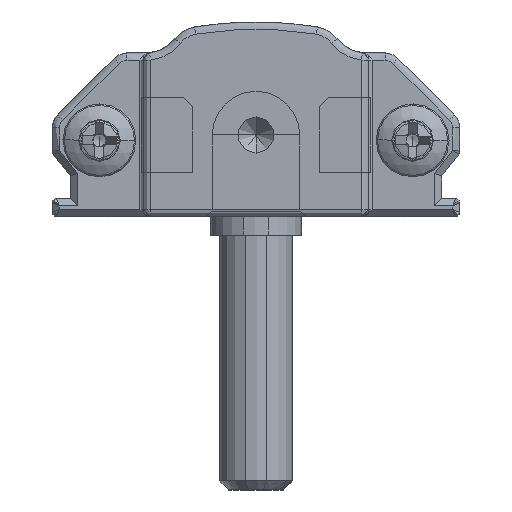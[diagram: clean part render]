
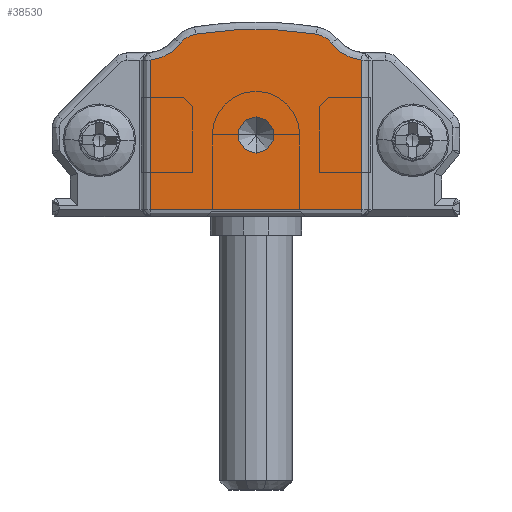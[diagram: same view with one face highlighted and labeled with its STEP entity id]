
A CAD part, front view. The second image highlights one B-rep face of the part: STEP entity #38530.
In plain terms, the highlighted planar face has unit normal (0, -1, 0).
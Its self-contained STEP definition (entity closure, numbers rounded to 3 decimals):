
#292 = AXIS2_PLACEMENT_3D ( 'NONE', #25834, #22277, #40824 ) ;
#1004 = CARTESIAN_POINT ( 'NONE',  ( 17., -15., 8.612 ) ) ;
#1143 = FACE_OUTER_BOUND ( 'NONE', #44625, .T. ) ;
#3998 = EDGE_CURVE ( 'NONE', #6296, #38974, #4802, .T. ) ;
#4467 = CIRCLE ( 'NONE', #40761, 2.4 ) ;
#4802 = CIRCLE ( 'NONE', #292, 1. ) ;
#5270 = ORIENTED_EDGE ( 'NONE', *, *, #6842, .T. ) ;
#5355 = DIRECTION ( 'NONE',  ( 0., 0., -1. ) ) ;
#5510 = VERTEX_POINT ( 'NONE', #30534 ) ;
#6296 = VERTEX_POINT ( 'NONE', #28655 ) ;
#6311 = CIRCLE ( 'NONE', #27528, 1. ) ;
#6405 = DIRECTION ( 'NONE',  ( 0., 1., 0. ) ) ;
#6616 = ORIENTED_EDGE ( 'NONE', *, *, #3998, .F. ) ;
#6833 = LINE ( 'NONE', #21259, #37518 ) ;
#6842 = EDGE_CURVE ( 'NONE', #34058, #10641, #4467, .T. ) ;
#7632 = EDGE_CURVE ( 'NONE', #40167, #23641, #41429, .T. ) ;
#8280 = ORIENTED_EDGE ( 'NONE', *, *, #7632, .T. ) ;
#8891 = CARTESIAN_POINT ( 'NONE',  ( 5.4, -15., 0.4 ) ) ;
#9062 = DIRECTION ( 'NONE',  ( 1., 0., 0. ) ) ;
#9845 = CARTESIAN_POINT ( 'NONE',  ( 8.1, -15., 8.75 ) ) ;
#10641 = VERTEX_POINT ( 'NONE', #22406 ) ;
#12047 = VECTOR ( 'NONE', #5355, 1000. ) ;
#13164 = DIRECTION ( 'NONE',  ( 0., 0., -1. ) ) ;
#13640 = CARTESIAN_POINT ( 'NONE',  ( 17., -15., 0.4 ) ) ;
#14256 = CARTESIAN_POINT ( 'NONE',  ( 7.068, -15., 9.541 ) ) ;
#14609 = DIRECTION ( 'NONE',  ( 0., 0., -1. ) ) ;
#15311 = DIRECTION ( 'NONE',  ( 0., 1., 0. ) ) ;
#15546 = DIRECTION ( 'NONE',  ( 0., 0., -1. ) ) ;
#15582 = FACE_BOUND ( 'NONE', #35878, .T. ) ;
#16917 = CARTESIAN_POINT ( 'NONE',  ( 17., -15., 0.4 ) ) ;
#16967 = AXIS2_PLACEMENT_3D ( 'NONE', #29115, #39802, #14609 ) ;
#17343 = EDGE_CURVE ( 'NONE', #38974, #6296, #6311, .T. ) ;
#17982 = ORIENTED_EDGE ( 'NONE', *, *, #33129, .T. ) ;
#18253 = CARTESIAN_POINT ( 'NONE',  ( 11.2, -15., 5.5 ) ) ;
#20560 = EDGE_CURVE ( 'NONE', #10641, #30268, #32872, .T. ) ;
#20845 = VERTEX_POINT ( 'NONE', #13640 ) ;
#21259 = CARTESIAN_POINT ( 'NONE',  ( 17., -15., 8.612 ) ) ;
#21878 = ORIENTED_EDGE ( 'NONE', *, *, #35130, .T. ) ;
#22277 = DIRECTION ( 'NONE',  ( 0., -1., 0. ) ) ;
#22406 = CARTESIAN_POINT ( 'NONE',  ( 15.332, -15., 9.541 ) ) ;
#23239 = VERTEX_POINT ( 'NONE', #14256 ) ;
#23641 = VERTEX_POINT ( 'NONE', #46449 ) ;
#24613 = CARTESIAN_POINT ( 'NONE',  ( 11.2, -15., -10.376 ) ) ;
#25834 = CARTESIAN_POINT ( 'NONE',  ( 11.2, -15., 4.5 ) ) ;
#25846 = AXIS2_PLACEMENT_3D ( 'NONE', #32060, #6405, #42730 ) ;
#26603 = ORIENTED_EDGE ( 'NONE', *, *, #17343, .F. ) ;
#26727 = DIRECTION ( 'NONE',  ( 0., -1., 0. ) ) ;
#27106 = ORIENTED_EDGE ( 'NONE', *, *, #39542, .T. ) ;
#27108 = LINE ( 'NONE', #16917, #46329 ) ;
#27347 = DIRECTION ( 'NONE',  ( 0., 0., -1. ) ) ;
#27528 = AXIS2_PLACEMENT_3D ( 'NONE', #30944, #45408, #27347 ) ;
#27735 = DIRECTION ( 'NONE',  ( 0., 0., -1. ) ) ;
#28655 = CARTESIAN_POINT ( 'NONE',  ( 11.2, -15., 3.5 ) ) ;
#28911 = CIRCLE ( 'NONE', #25846, 2.4 ) ;
#29115 = CARTESIAN_POINT ( 'NONE',  ( 14.3, -15., 8.75 ) ) ;
#30109 = PLANE ( 'NONE',  #39611 ) ;
#30268 = VERTEX_POINT ( 'NONE', #43313 ) ;
#30534 = CARTESIAN_POINT ( 'NONE',  ( 7.892, -15., 10.034 ) ) ;
#30944 = CARTESIAN_POINT ( 'NONE',  ( 11.2, -15., 4.5 ) ) ;
#31791 = ORIENTED_EDGE ( 'NONE', *, *, #33501, .T. ) ;
#32060 = CARTESIAN_POINT ( 'NONE',  ( 5.162, -15., 11. ) ) ;
#32111 = AXIS2_PLACEMENT_3D ( 'NONE', #24613, #34641, #27735 ) ;
#32266 = DIRECTION ( 'NONE',  ( 0., 0., 1. ) ) ;
#32872 = CIRCLE ( 'NONE', #16967, 1.3 ) ;
#33129 = EDGE_CURVE ( 'NONE', #23641, #20845, #27108, .T. ) ;
#33501 = EDGE_CURVE ( 'NONE', #23239, #40167, #28911, .T. ) ;
#34058 = VERTEX_POINT ( 'NONE', #1004 ) ;
#34641 = DIRECTION ( 'NONE',  ( 0., -1., 0. ) ) ;
#35039 = DIRECTION ( 'NONE',  ( 0., -1., 0. ) ) ;
#35130 = EDGE_CURVE ( 'NONE', #30268, #5510, #38086, .T. ) ;
#35878 = EDGE_LOOP ( 'NONE', ( #6616, #26603 ) ) ;
#36639 = ORIENTED_EDGE ( 'NONE', *, *, #20560, .T. ) ;
#37518 = VECTOR ( 'NONE', #32266, 1000. ) ;
#38086 = CIRCLE ( 'NONE', #32111, 20.676 ) ;
#38530 = ADVANCED_FACE ( 'NONE', ( #1143, #15582 ), #30109, .T. ) ;
#38974 = VERTEX_POINT ( 'NONE', #18253 ) ;
#39542 = EDGE_CURVE ( 'NONE', #5510, #23239, #41238, .T. ) ;
#39611 = AXIS2_PLACEMENT_3D ( 'NONE', #44822, #26727, #41242 ) ;
#39802 = DIRECTION ( 'NONE',  ( 0., -1., 0. ) ) ;
#40167 = VERTEX_POINT ( 'NONE', #43597 ) ;
#40761 = AXIS2_PLACEMENT_3D ( 'NONE', #43835, #15311, #15546 ) ;
#40824 = DIRECTION ( 'NONE',  ( 0., 0., -1. ) ) ;
#41238 = CIRCLE ( 'NONE', #42019, 1.3 ) ;
#41242 = DIRECTION ( 'NONE',  ( 0., 0., -1. ) ) ;
#41429 = LINE ( 'NONE', #8891, #12047 ) ;
#42019 = AXIS2_PLACEMENT_3D ( 'NONE', #9845, #35039, #13164 ) ;
#42730 = DIRECTION ( 'NONE',  ( 0., 0., -1. ) ) ;
#43313 = CARTESIAN_POINT ( 'NONE',  ( 14.508, -15., 10.034 ) ) ;
#43597 = CARTESIAN_POINT ( 'NONE',  ( 5.4, -15., 8.612 ) ) ;
#43835 = CARTESIAN_POINT ( 'NONE',  ( 17.238, -15., 11. ) ) ;
#44147 = ORIENTED_EDGE ( 'NONE', *, *, #44757, .T. ) ;
#44625 = EDGE_LOOP ( 'NONE', ( #44147, #5270, #36639, #21878, #27106, #31791, #8280, #17982 ) ) ;
#44757 = EDGE_CURVE ( 'NONE', #20845, #34058, #6833, .T. ) ;
#44822 = CARTESIAN_POINT ( 'NONE',  ( 22.15, -15., 3.606 ) ) ;
#45408 = DIRECTION ( 'NONE',  ( 0., -1., 0. ) ) ;
#46329 = VECTOR ( 'NONE', #9062, 1000. ) ;
#46449 = CARTESIAN_POINT ( 'NONE',  ( 5.4, -15., 0.4 ) ) ;
